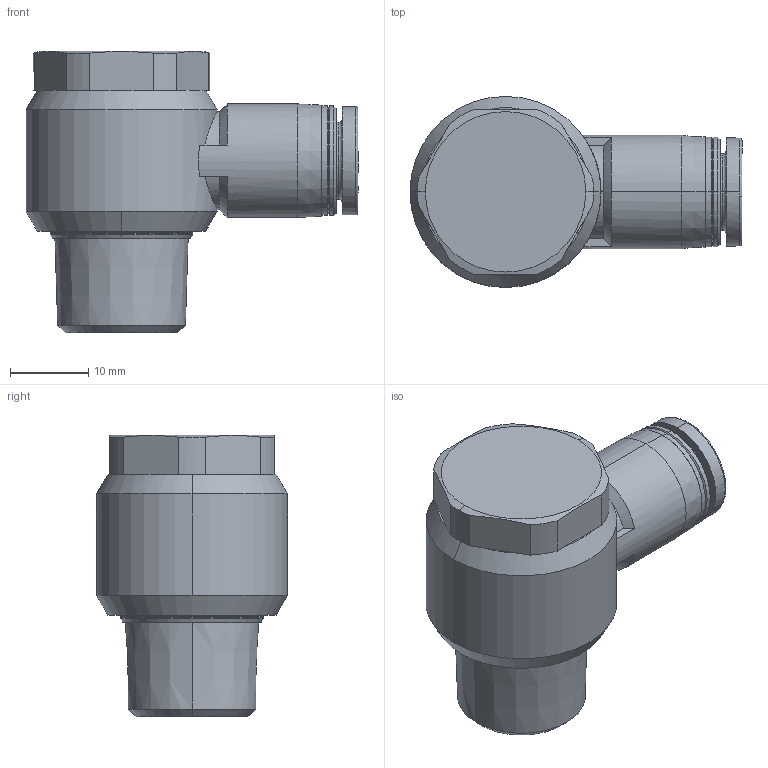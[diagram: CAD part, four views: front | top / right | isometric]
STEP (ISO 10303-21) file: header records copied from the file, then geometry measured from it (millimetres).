
FILE_DESCRIPTION (( 'STEP AP214' ), '1' );
FILE_NAME ('APH8-03.STEP', '2019-12-05T03:46:50', ( '微软用户' ), ( '微软中国' ), 'SwSTEP 2.0', 'SolidWorks 2016', '' );
FILE_SCHEMA (( 'AUTOMOTIVE_DESIGN' ));
Length unit declared in the file: millimetre
Products named in the file (1): APH8-03
Bounding box: 42.4 x 24.4 x 36 mm (x, y, z)
Volume: 14812.5 mm3; surface area: 4620.1 mm2
Topology: 1 solids, 1 shells, 96 faces, 228 edges, 141 vertices
Faces by surface type: plane 32, cylinder 28, cone 28, bspline 8
Entity records: 3153 total; most frequent: CARTESIAN_POINT 884, DIRECTION 501, ORIENTED_EDGE 456, EDGE_CURVE 228, AXIS2_PLACEMENT_3D 208, VERTEX_POINT 141, CIRCLE 119, EDGE_LOOP 103
